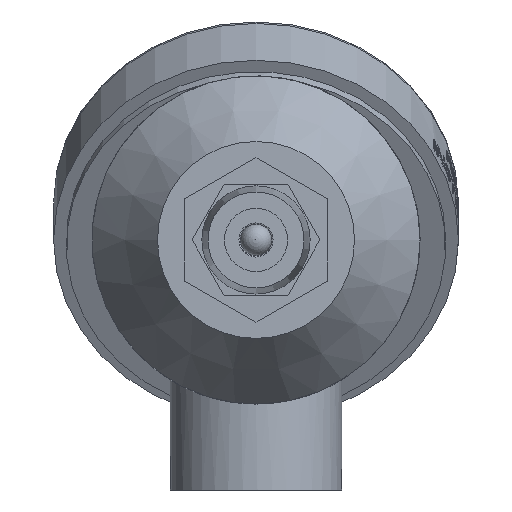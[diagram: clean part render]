
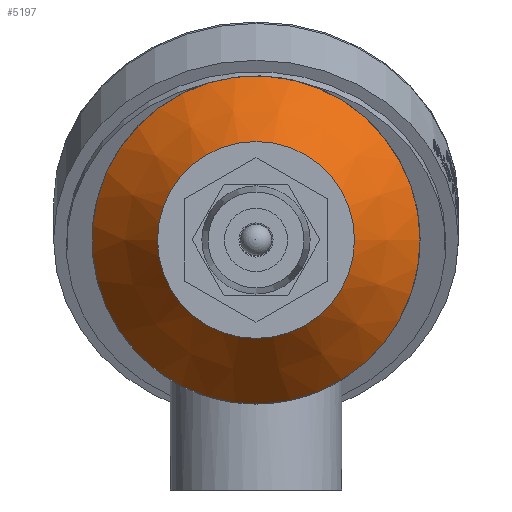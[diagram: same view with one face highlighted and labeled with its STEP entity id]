
A CAD part, front view. The second image highlights one B-rep face of the part: STEP entity #5197.
In plain terms, the highlighted conical face has half-angle 35.538 degrees and reference radius 26.369 mm.
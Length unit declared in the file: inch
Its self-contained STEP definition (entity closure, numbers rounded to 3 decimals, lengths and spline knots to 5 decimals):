
#1575=FACE_BOUND($,#1959,.T.);
#1643=FACE_OUTER_BOUND($,#1958,.T.);
#1958=EDGE_LOOP($,(#3761));
#1959=EDGE_LOOP($,(#3762));
#2267=CIRCLE($,#5507,1.2977);
#2272=CIRCLE($,#5528,0.77862);
#2402=VERTEX_POINT($,#6951);
#2421=VERTEX_POINT($,#7019);
#2924=EDGE_CURVE($,#2402,#2402,#2267,.T.);
#2950=EDGE_CURVE($,#2421,#2421,#2272,.T.);
#3761=ORIENTED_EDGE($,*,*,#2950,.F.);
#3762=ORIENTED_EDGE($,*,*,#2924,.T.);
#5158=CONICAL_SURFACE($,#5527,1.03816,35.538);
#5197=ADVANCED_FACE($,(#1643,#1575),#5158,.T.);
#5507=AXIS2_PLACEMENT_3D($,#6952,#5905,#5906);
#5527=AXIS2_PLACEMENT_3D($,#7018,#5963,#5964);
#5528=AXIS2_PLACEMENT_3D($,#7020,#5965,#5966);
#5905=DIRECTION('center_axis',(0.,-1.,0.));
#5906=DIRECTION('ref_axis',(1.,0.,0.));
#5963=DIRECTION('center_axis',(0.,1.,0.));
#5964=DIRECTION('ref_axis',(1.,0.,0.));
#5965=DIRECTION('center_axis',(0.,-1.,0.));
#5966=DIRECTION('ref_axis',(1.,0.,0.));
#6951=CARTESIAN_POINT('',(0.92739,-0.69228,-0.0388));
#6952=CARTESIAN_POINT('Origin',(-0.37031,-0.69228,-0.0388));
#7018=CARTESIAN_POINT('Origin',(-0.37031,-1.05563,-0.0388));
#7019=CARTESIAN_POINT('',(0.40831,-1.41899,-0.0388));
#7020=CARTESIAN_POINT('Origin',(-0.37031,-1.41899,-0.0388));
